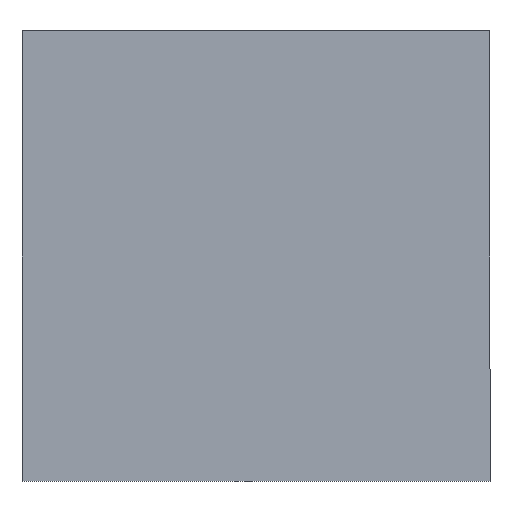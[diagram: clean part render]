
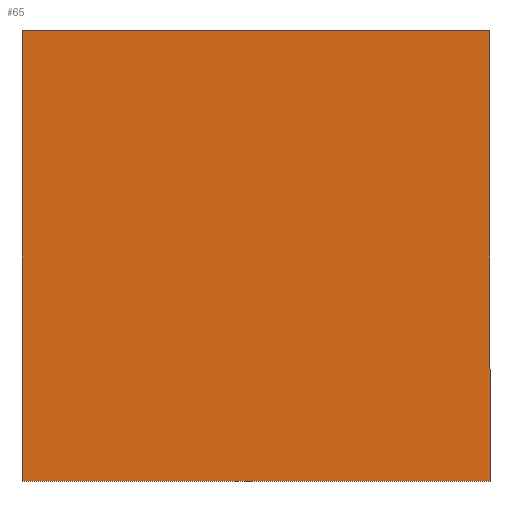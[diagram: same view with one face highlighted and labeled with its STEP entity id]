
A CAD part, top view. The second image highlights one B-rep face of the part: STEP entity #65.
In plain terms, the highlighted planar face has unit normal (0, 0, 1).
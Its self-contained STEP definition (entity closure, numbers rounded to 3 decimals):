
#7 = ORIENTED_EDGE ( 'NONE', *, *, #206, .T. ) ;
#9 = DIRECTION ( 'NONE',  ( 1., 0., 0. ) ) ;
#10 = EDGE_CURVE ( 'NONE', #229, #178, #135, .T. ) ;
#15 = DIRECTION ( 'NONE',  ( 0., 1., 0. ) ) ;
#34 = LINE ( 'NONE', #236, #148 ) ;
#51 = CARTESIAN_POINT ( 'NONE',  ( -27., 26., 0.19 ) ) ;
#63 = DIRECTION ( 'NONE',  ( 0., 0., 1. ) ) ;
#65 = ADVANCED_FACE ( 'NONE', ( #160 ), #230, .T. ) ;
#68 = CARTESIAN_POINT ( 'NONE',  ( -27., -26., 0.19 ) ) ;
#71 = VECTOR ( 'NONE', #15, 1000. ) ;
#83 = CARTESIAN_POINT ( 'NONE',  ( 27., 26., 0.19 ) ) ;
#93 = AXIS2_PLACEMENT_3D ( 'NONE', #115, #63, #192 ) ;
#99 = CARTESIAN_POINT ( 'NONE',  ( -27., -26., 0.19 ) ) ;
#106 = CARTESIAN_POINT ( 'NONE',  ( 27., 26., 0.19 ) ) ;
#115 = CARTESIAN_POINT ( 'NONE',  ( 0., 0., 0.19 ) ) ;
#122 = DIRECTION ( 'NONE',  ( 0., -1., 0. ) ) ;
#125 = CARTESIAN_POINT ( 'NONE',  ( 27., -26., 0.19 ) ) ;
#135 = LINE ( 'NONE', #99, #203 ) ;
#138 = VERTEX_POINT ( 'NONE', #199 ) ;
#142 = DIRECTION ( 'NONE',  ( -1., 0., 0. ) ) ;
#148 = VECTOR ( 'NONE', #142, 1000. ) ;
#155 = VERTEX_POINT ( 'NONE', #83 ) ;
#160 = FACE_OUTER_BOUND ( 'NONE', #179, .T. ) ;
#162 = EDGE_CURVE ( 'NONE', #155, #138, #34, .T. ) ;
#164 = LINE ( 'NONE', #51, #210 ) ;
#172 = ORIENTED_EDGE ( 'NONE', *, *, #162, .T. ) ;
#178 = VERTEX_POINT ( 'NONE', #125 ) ;
#179 = EDGE_LOOP ( 'NONE', ( #7, #212, #214, #172 ) ) ;
#192 = DIRECTION ( 'NONE',  ( 1., 0., 0. ) ) ;
#199 = CARTESIAN_POINT ( 'NONE',  ( -27., 26., 0.19 ) ) ;
#203 = VECTOR ( 'NONE', #9, 1000. ) ;
#204 = EDGE_CURVE ( 'NONE', #178, #155, #234, .T. ) ;
#206 = EDGE_CURVE ( 'NONE', #138, #229, #164, .T. ) ;
#210 = VECTOR ( 'NONE', #122, 1000. ) ;
#212 = ORIENTED_EDGE ( 'NONE', *, *, #10, .T. ) ;
#214 = ORIENTED_EDGE ( 'NONE', *, *, #204, .T. ) ;
#229 = VERTEX_POINT ( 'NONE', #68 ) ;
#230 = PLANE ( 'NONE',  #93 ) ;
#234 = LINE ( 'NONE', #106, #71 ) ;
#236 = CARTESIAN_POINT ( 'NONE',  ( -27., 26., 0.19 ) ) ;
